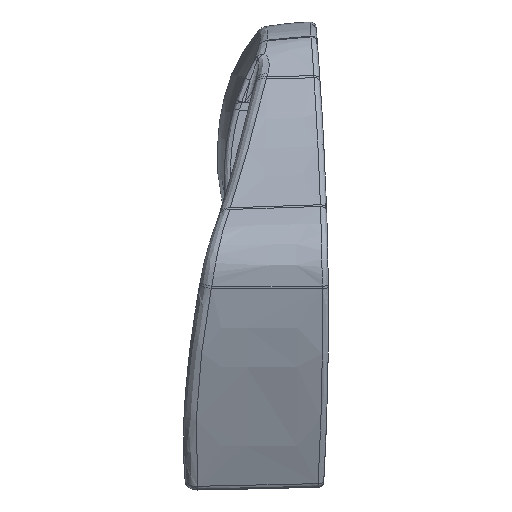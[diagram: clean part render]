
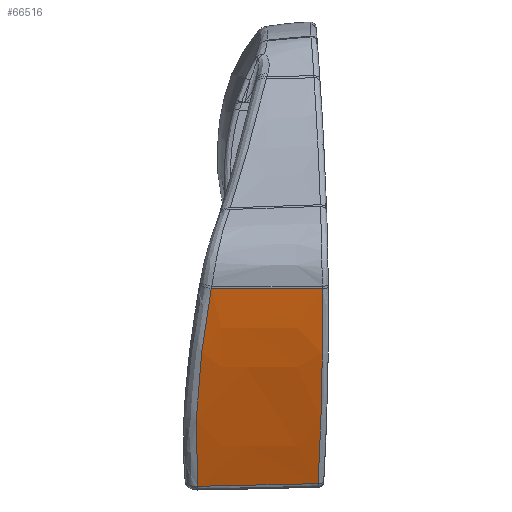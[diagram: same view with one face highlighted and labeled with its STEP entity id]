
A CAD part, front view. The second image highlights one B-rep face of the part: STEP entity #66516.
In plain terms, the highlighted free-form (B-spline) face has degree [5, 5] with [6, 6] control points.
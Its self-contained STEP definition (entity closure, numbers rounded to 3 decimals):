
#54099=CARTESIAN_POINT('Vertex',(-9.383,-1007.873,1227.111)) ;
#54249=CARTESIAN_POINT('Vertex',(-20.461,-953.859,1064.105)) ;
#54253=CARTESIAN_POINT('Control Point',(-9.383,-1007.873,1227.111)) ;
#54254=CARTESIAN_POINT('Control Point',(-12.15,-1004.986,1211.607)) ;
#54255=CARTESIAN_POINT('Control Point',(-14.615,-1001.279,1195.961)) ;
#54256=CARTESIAN_POINT('Control Point',(-16.781,-996.841,1179.997)) ;
#54257=CARTESIAN_POINT('Control Point',(-19.543,-989.257,1155.845)) ;
#54258=CARTESIAN_POINT('Control Point',(-21.285,-980.321,1130.815)) ;
#54259=CARTESIAN_POINT('Control Point',(-21.722,-977.311,1122.663)) ;
#54260=CARTESIAN_POINT('Control Point',(-22.116,-972.98,1111.272)) ;
#54261=CARTESIAN_POINT('Control Point',(-22.158,-968.436,1099.726)) ;
#54262=CARTESIAN_POINT('Control Point',(-22.136,-967.437,1097.216)) ;
#54263=CARTESIAN_POINT('Control Point',(-22.099,-966.143,1093.973)) ;
#54264=CARTESIAN_POINT('Control Point',(-22.029,-964.834,1090.719)) ;
#54265=CARTESIAN_POINT('Control Point',(-22.001,-964.378,1089.589)) ;
#54266=CARTESIAN_POINT('Control Point',(-21.933,-963.392,1087.151)) ;
#54267=CARTESIAN_POINT('Control Point',(-21.829,-962.235,1084.308)) ;
#54268=CARTESIAN_POINT('Control Point',(-21.766,-961.609,1082.774)) ;
#54269=CARTESIAN_POINT('Control Point',(-21.546,-959.688,1078.087)) ;
#54270=CARTESIAN_POINT('Control Point',(-21.25,-957.74,1073.379)) ;
#54271=CARTESIAN_POINT('Control Point',(-21.023,-956.456,1070.295)) ;
#54272=CARTESIAN_POINT('Control Point',(-20.76,-955.163,1067.204)) ;
#54273=CARTESIAN_POINT('Control Point',(-20.461,-953.859,1064.105)) ;
#59273=CARTESIAN_POINT('Vertex',(78.724,-948.914,1066.272)) ;
#59277=CARTESIAN_POINT('Control Point',(78.724,-948.914,1066.272)) ;
#59278=CARTESIAN_POINT('Control Point',(58.891,-950.199,1065.709)) ;
#59279=CARTESIAN_POINT('Control Point',(39.056,-951.32,1065.212)) ;
#59280=CARTESIAN_POINT('Control Point',(19.219,-952.292,1064.781)) ;
#59281=CARTESIAN_POINT('Control Point',(-0.621,-953.132,1064.414)) ;
#59282=CARTESIAN_POINT('Control Point',(-20.461,-953.859,1064.105)) ;
#66417=CARTESIAN_POINT('Control Point',(-9.383,-1007.873,1227.111)) ;
#66418=CARTESIAN_POINT('Control Point',(-8.705,-1007.889,1227.111)) ;
#66419=CARTESIAN_POINT('Control Point',(-8.027,-1007.905,1227.111)) ;
#66420=CARTESIAN_POINT('Control Point',(-7.349,-1007.921,1227.111)) ;
#66421=CARTESIAN_POINT('Control Point',(-5.086,-1007.972,1227.111)) ;
#66422=CARTESIAN_POINT('Control Point',(-2.822,-1008.021,1227.111)) ;
#66423=CARTESIAN_POINT('Control Point',(-1.237,-1008.055,1227.111)) ;
#66424=CARTESIAN_POINT('Control Point',(6.69,-1008.216,1227.111)) ;
#66425=CARTESIAN_POINT('Control Point',(14.616,-1008.35,1227.111)) ;
#66426=CARTESIAN_POINT('Control Point',(20.957,-1008.438,1227.111)) ;
#66427=CARTESIAN_POINT('Control Point',(33.64,-1008.575,1227.111)) ;
#66428=CARTESIAN_POINT('Control Point',(46.322,-1008.627,1227.111)) ;
#66429=CARTESIAN_POINT('Control Point',(52.663,-1008.63,1227.111)) ;
#66430=CARTESIAN_POINT('Control Point',(62.366,-1008.6,1227.111)) ;
#66431=CARTESIAN_POINT('Control Point',(72.068,-1008.512,1227.111)) ;
#66432=CARTESIAN_POINT('Control Point',(75.429,-1008.475,1227.111)) ;
#66433=CARTESIAN_POINT('Control Point',(78.79,-1008.43,1227.111)) ;
#66434=CARTESIAN_POINT('Control Point',(82.152,-1008.378,1227.111)) ;
#66435=CARTESIAN_POINT('Vertex',(82.152,-1008.378,1227.111)) ;
#66463=CARTESIAN_POINT('Control Point',(82.217,-947.695,1064.189)) ;
#66464=CARTESIAN_POINT('Control Point',(61.321,-949.357,1064.172)) ;
#66465=CARTESIAN_POINT('Control Point',(40.424,-950.788,1064.157)) ;
#66466=CARTESIAN_POINT('Control Point',(19.525,-952.013,1064.142)) ;
#66467=CARTESIAN_POINT('Control Point',(-1.376,-953.055,1064.124)) ;
#66468=CARTESIAN_POINT('Control Point',(-22.278,-953.936,1064.103)) ;
#66469=CARTESIAN_POINT('Control Point',(82.25,-962.635,1097.108)) ;
#66470=CARTESIAN_POINT('Control Point',(61.352,-964.038,1097.089)) ;
#66471=CARTESIAN_POINT('Control Point',(40.453,-965.24,1097.068)) ;
#66472=CARTESIAN_POINT('Control Point',(19.555,-966.238,1097.046)) ;
#66473=CARTESIAN_POINT('Control Point',(-1.342,-967.028,1097.022)) ;
#66474=CARTESIAN_POINT('Control Point',(-22.239,-967.607,1096.996)) ;
#66475=CARTESIAN_POINT('Control Point',(82.288,-977.55,1129.964)) ;
#66476=CARTESIAN_POINT('Control Point',(61.391,-978.645,1129.943)) ;
#66477=CARTESIAN_POINT('Control Point',(40.495,-979.526,1129.919)) ;
#66478=CARTESIAN_POINT('Control Point',(19.6,-980.185,1129.894)) ;
#66479=CARTESIAN_POINT('Control Point',(-1.295,-980.615,1129.867)) ;
#66480=CARTESIAN_POINT('Control Point',(-22.189,-980.808,1129.838)) ;
#66481=CARTESIAN_POINT('Control Point',(82.327,-991.061,1162.67)) ;
#66482=CARTESIAN_POINT('Control Point',(61.434,-991.844,1162.647)) ;
#66483=CARTESIAN_POINT('Control Point',(40.541,-992.38,1162.622)) ;
#66484=CARTESIAN_POINT('Control Point',(19.648,-992.671,1162.595)) ;
#66485=CARTESIAN_POINT('Control Point',(-1.245,-992.721,1162.567)) ;
#66486=CARTESIAN_POINT('Control Point',(-22.137,-992.533,1162.539)) ;
#66487=CARTESIAN_POINT('Control Point',(82.363,-1001.787,1195.11)) ;
#66488=CARTESIAN_POINT('Control Point',(61.474,-1002.298,1195.089)) ;
#66489=CARTESIAN_POINT('Control Point',(40.584,-1002.531,1195.065)) ;
#66490=CARTESIAN_POINT('Control Point',(19.693,-1002.507,1195.04)) ;
#66491=CARTESIAN_POINT('Control Point',(-1.2,-1002.248,1195.016)) ;
#66492=CARTESIAN_POINT('Control Point',(-22.095,-1001.774,1194.994)) ;
#66493=CARTESIAN_POINT('Control Point',(82.389,-1008.389,1227.179)) ;
#66494=CARTESIAN_POINT('Control Point',(61.502,-1008.71,1227.162)) ;
#66495=CARTESIAN_POINT('Control Point',(40.612,-1008.747,1227.144)) ;
#66496=CARTESIAN_POINT('Control Point',(19.718,-1008.539,1227.128)) ;
#66497=CARTESIAN_POINT('Control Point',(-1.179,-1008.125,1227.114)) ;
#66498=CARTESIAN_POINT('Control Point',(-22.079,-1007.547,1227.104)) ;
#66500=CARTESIAN_POINT('Control Point',(82.152,-1008.378,1227.111)) ;
#66501=CARTESIAN_POINT('Control Point',(82.294,-1005.639,1213.827)) ;
#66502=CARTESIAN_POINT('Control Point',(82.355,-1002.207,1200.545)) ;
#66503=CARTESIAN_POINT('Control Point',(82.329,-998.194,1187.288)) ;
#66504=CARTESIAN_POINT('Control Point',(82.047,-987.266,1155.048)) ;
#66505=CARTESIAN_POINT('Control Point',(81.241,-974.113,1122.95)) ;
#66506=CARTESIAN_POINT('Control Point',(80.585,-965.869,1104.056)) ;
#66507=CARTESIAN_POINT('Control Point',(79.748,-957.391,1085.178)) ;
#66508=CARTESIAN_POINT('Control Point',(78.724,-948.914,1066.272)) ;
#66511=ORIENTED_EDGE('',*,*,#66509,.T.) ;
#66512=ORIENTED_EDGE('',*,*,#66437,.T.) ;
#66513=ORIENTED_EDGE('',*,*,#54274,.F.) ;
#66514=ORIENTED_EDGE('',*,*,#59283,.T.) ;
#66516=ADVANCED_FACE('\X2\4E0A80CC\X0\',(#66515),#66462,.T.) ;
#54252=B_SPLINE_CURVE_WITH_KNOTS('',5,(#54253,#54254,#54255,#54256,#54257,#54258,#54259,#54260,#54261,#54262,#54263,#54264,#54265,#54266,#54267,#54268,#54269,#54270,#54271,#54272,#54273),.UNSPECIFIED.,.F.,.U.,(6,3,3,3,3,3,6),(0.,180.273,265.901,298.661,315.042,331.422,362.274),.UNSPECIFIED.) ;
#59276=B_SPLINE_CURVE_WITH_KNOTS('',5,(#59277,#59278,#59279,#59280,#59281,#59282),.UNSPECIFIED.,.F.,.U.,(6,6),(40.245,180.675),.UNSPECIFIED.) ;
#66416=B_SPLINE_CURVE_WITH_KNOTS('',5,(#66417,#66418,#66419,#66420,#66421,#66422,#66423,#66424,#66425,#66426,#66427,#66428,#66429,#66430,#66431,#66432,#66433,#66434),.UNSPECIFIED.,.F.,.U.,(6,3,3,3,3,6),(20.355,23.74,31.653,63.306,94.96,111.742),.UNSPECIFIED.) ;
#66499=B_SPLINE_CURVE_WITH_KNOTS('',5,(#66500,#66501,#66502,#66503,#66504,#66505,#66506,#66507,#66508),.UNSPECIFIED.,.F.,.U.,(6,3,6),(441.911,540.193,681.401),.UNSPECIFIED.) ;
#66462=B_SPLINE_SURFACE_WITH_KNOTS('',5,5,((#66463,#66464,#66465,#66466,#66467,#66468),(#66469,#66470,#66471,#66472,#66473,#66474),(#66475,#66476,#66477,#66478,#66479,#66480),(#66481,#66482,#66483,#66484,#66485,#66486),(#66487,#66488,#66489,#66490,#66491,#66492),(#66493,#66494,#66495,#66496,#66497,#66498)),.UNSPECIFIED.,.F.,.F.,.U.,(6,6),(6,6),(5.403,176.965),(28.485,133.298),.UNSPECIFIED.) ;
#54274=EDGE_CURVE('',#54250,#54100,#54252,.F.) ;
#59283=EDGE_CURVE('',#54250,#59274,#59276,.F.) ;
#66437=EDGE_CURVE('',#66436,#54100,#66416,.F.) ;
#66509=EDGE_CURVE('',#59274,#66436,#66499,.F.) ;
#66510=EDGE_LOOP('',(#66511,#66512,#66513,#66514)) ;
#66515=FACE_OUTER_BOUND('',#66510,.T.) ;
#54100=VERTEX_POINT('',#54099) ;
#54250=VERTEX_POINT('',#54249) ;
#59274=VERTEX_POINT('',#59273) ;
#66436=VERTEX_POINT('',#66435) ;
